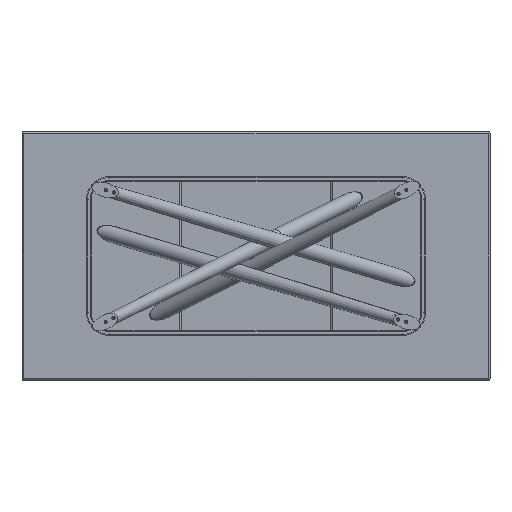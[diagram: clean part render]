
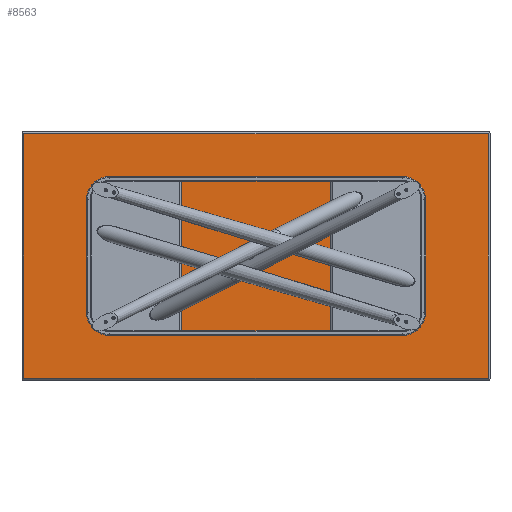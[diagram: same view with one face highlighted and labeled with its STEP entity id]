
A CAD part, front view. The second image highlights one B-rep face of the part: STEP entity #8563.
In plain terms, the highlighted planar face has unit normal (0, -1, 0).
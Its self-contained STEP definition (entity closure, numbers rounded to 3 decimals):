
#61 = LINE ( 'NONE', #5796, #3038 ) ;
#213 = DIRECTION ( 'NONE',  ( 1., 0., 0. ) ) ;
#262 = ORIENTED_EDGE ( 'NONE', *, *, #1176, .T. ) ;
#315 = EDGE_CURVE ( 'NONE', #1739, #6990, #1916, .T. ) ;
#551 = DIRECTION ( 'NONE',  ( -1., 0., 0. ) ) ;
#568 = CARTESIAN_POINT ( 'NONE',  ( -992., 0., 522. ) ) ;
#944 = CARTESIAN_POINT ( 'NONE',  ( -992., 0., -522. ) ) ;
#1176 = EDGE_CURVE ( 'NONE', #6751, #7095, #6527, .T. ) ;
#1739 = VERTEX_POINT ( 'NONE', #568 ) ;
#1916 = LINE ( 'NONE', #6494, #6977 ) ;
#2567 = CARTESIAN_POINT ( 'NONE',  ( 992., 0., 0. ) ) ;
#3038 = VECTOR ( 'NONE', #213, 1000. ) ;
#3656 = EDGE_CURVE ( 'NONE', #6990, #6751, #61, .T. ) ;
#4656 = EDGE_LOOP ( 'NONE', ( #262, #8292, #7114, #9563 ) ) ;
#5556 = VECTOR ( 'NONE', #551, 1000. ) ;
#5749 = DIRECTION ( 'NONE',  ( 0., 0., 1. ) ) ;
#5796 = CARTESIAN_POINT ( 'NONE',  ( 0., 0., -522. ) ) ;
#5868 = DIRECTION ( 'NONE',  ( 0., 0., 1. ) ) ;
#6161 = CARTESIAN_POINT ( 'NONE',  ( 0., 0., 0. ) ) ;
#6494 = CARTESIAN_POINT ( 'NONE',  ( -992., 0., 0. ) ) ;
#6527 = LINE ( 'NONE', #2567, #6651 ) ;
#6553 = DIRECTION ( 'NONE',  ( 0., 0., -1. ) ) ;
#6651 = VECTOR ( 'NONE', #5749, 1000. ) ;
#6744 = EDGE_CURVE ( 'NONE', #7095, #1739, #6959, .T. ) ;
#6751 = VERTEX_POINT ( 'NONE', #9198 ) ;
#6959 = LINE ( 'NONE', #10031, #5556 ) ;
#6977 = VECTOR ( 'NONE', #6553, 1000. ) ;
#6990 = VERTEX_POINT ( 'NONE', #944 ) ;
#6994 = PLANE ( 'NONE',  #8255 ) ;
#7095 = VERTEX_POINT ( 'NONE', #7306 ) ;
#7114 = ORIENTED_EDGE ( 'NONE', *, *, #315, .T. ) ;
#7306 = CARTESIAN_POINT ( 'NONE',  ( 992., 0., 522. ) ) ;
#7675 = DIRECTION ( 'NONE',  ( 0., 1., 0. ) ) ;
#7775 = FACE_OUTER_BOUND ( 'NONE', #4656, .T. ) ;
#8255 = AXIS2_PLACEMENT_3D ( 'NONE', #6161, #7675, #5868 ) ;
#8292 = ORIENTED_EDGE ( 'NONE', *, *, #6744, .T. ) ;
#8563 = ADVANCED_FACE ( 'NONE', ( #7775 ), #6994, .F. ) ;
#9198 = CARTESIAN_POINT ( 'NONE',  ( 992., 0., -522. ) ) ;
#9563 = ORIENTED_EDGE ( 'NONE', *, *, #3656, .T. ) ;
#10031 = CARTESIAN_POINT ( 'NONE',  ( 0., 0., 522. ) ) ;
